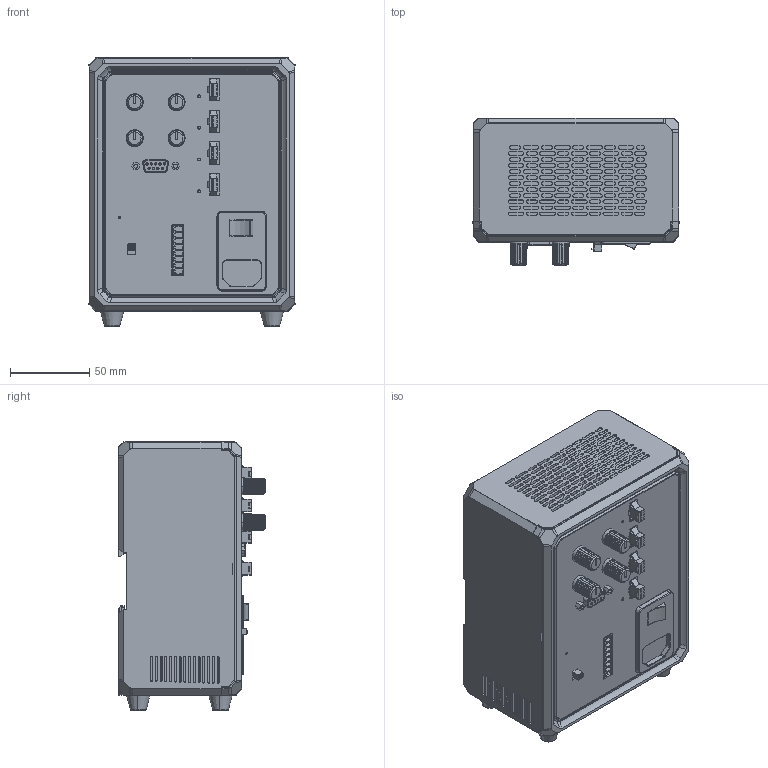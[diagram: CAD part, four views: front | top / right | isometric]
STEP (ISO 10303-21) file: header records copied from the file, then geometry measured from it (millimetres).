
FILE_DESCRIPTION((''),'2;1');
FILE_NAME('PRT0083','2024-04-07T10:42:12',('qinyangfan'),(''),'CREO PARAMETRIC BY PTC INC, 2020044','CREO PARAMETRIC BY PTC INC, 2020044','');
FILE_SCHEMA(('CONFIG_CONTROL_DESIGN'));
Products named in the file (1): PRT0083
Bounding box: 130.23 x 92.87 x 169.62 mm (x, y, z)
Volume: 1535216.6 mm3; surface area: 161282.6 mm2
Topology: 1 solids, 45 shells, 5244 faces, 14850 edges, 9893 vertices
Faces by surface type: plane 2980, cylinder 1514, bspline 260, sphere 175, cone 167, torus 93, extrusion 47, revolution 8
Entity records: 201696 total; most frequent: CARTESIAN_POINT 67454, ORIENTED_EDGE 29352, DIRECTION 26359, EDGE_CURVE 14676, VERTEX_POINT 9893, AXIS2_PLACEMENT_3D 9000, VECTOR 8351, LINE 8304
